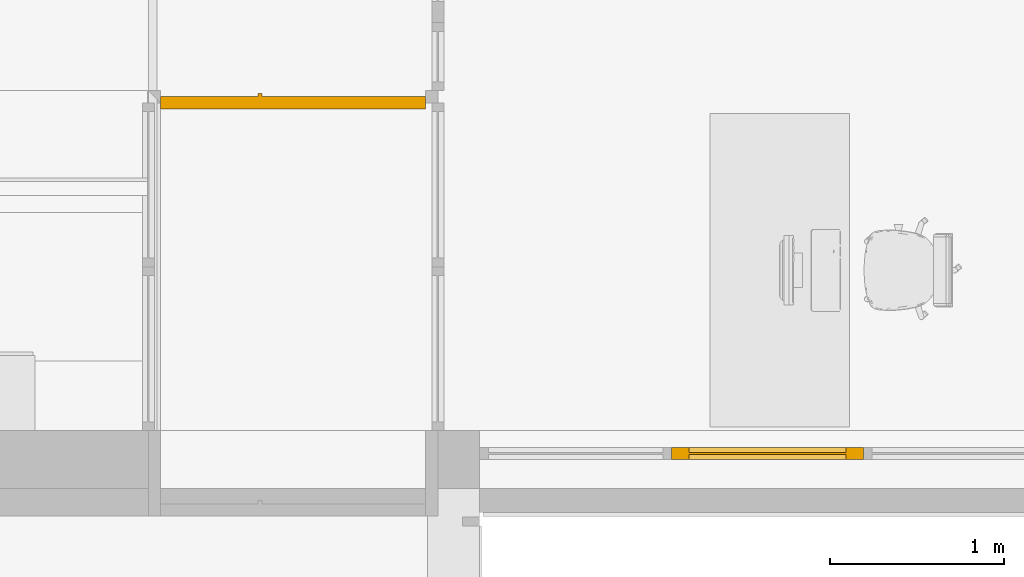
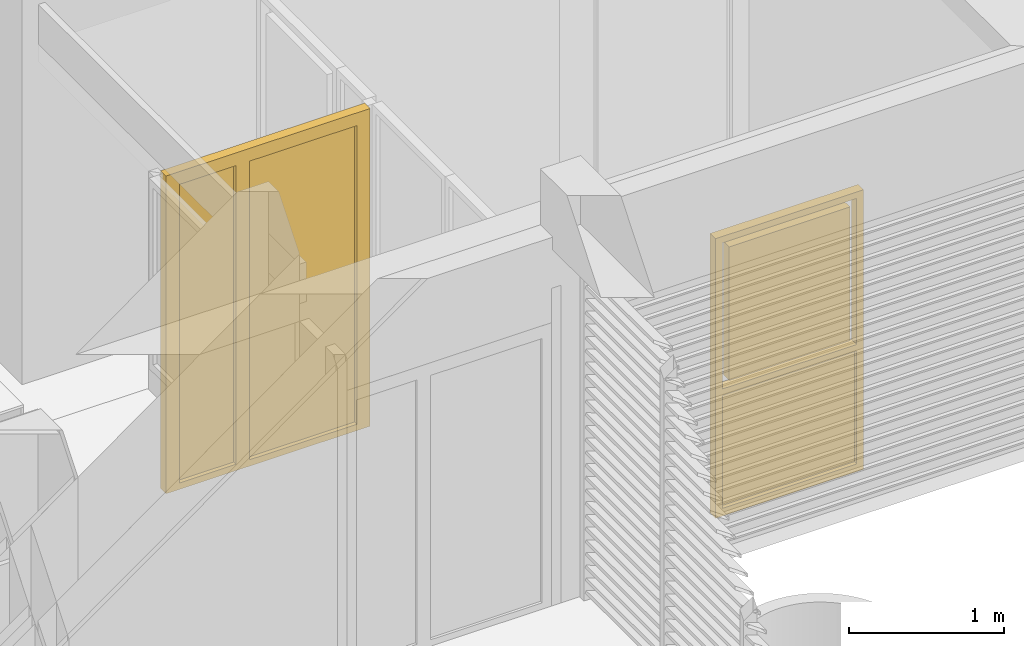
# One storey, part 47 of 64: 2 windows.
"""IFC2X3 building model written with IfcOpenShell, lengths in metres."""

from ifc_helpers import new_model, entity, si_unit, converted_unit, derived_unit, direction, frame, origin, place, context, subcontext, project, spatial, faceted_brep, source, transform, mapped, material, type_object, type_shapes, element, save


model = new_model("IFC2X3")

# Units and contexts
model_context = context("Model", 3, precision=1e-05, world=origin(), true_north=direction((6.123031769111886e-17, 1.0)))
body_context = subcontext(model_context, "Body", "Model", "MODEL_VIEW")
ifc_project = project(units=[si_unit("LENGTHUNIT", "METRE"), si_unit("AREAUNIT", "SQUARE_METRE"), si_unit("VOLUMEUNIT", "CUBIC_METRE"), converted_unit("PLANEANGLEUNIT", "DEGREE", entity("IfcRatioMeasure", 0.017453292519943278), si_unit("PLANEANGLEUNIT", "RADIAN"), dimensions=[0, 0, 0, 0, 0, 0, 0]), si_unit("MASSUNIT", "GRAM", prefix="KILO"), derived_unit("MASSDENSITYUNIT", [(si_unit("MASSUNIT", "GRAM", prefix="KILO"), 1), (si_unit("LENGTHUNIT", "METRE"), -3)]), derived_unit("MOMENTOFINERTIAUNIT", [(si_unit("LENGTHUNIT", "METRE"), 4)]), si_unit("TIMEUNIT", "SECOND"), si_unit("FREQUENCYUNIT", "HERTZ"), si_unit("THERMODYNAMICTEMPERATUREUNIT", "DEGREE_CELSIUS"), derived_unit("THERMALTRANSMITTANCEUNIT", [(si_unit("MASSUNIT", "GRAM", prefix="KILO"), 1), (si_unit("THERMODYNAMICTEMPERATUREUNIT", "KELVIN"), -1), (si_unit("TIMEUNIT", "SECOND"), -3)]), derived_unit("THERMALCONDUCTANCEUNIT", [(si_unit("MASSUNIT", "GRAM", prefix="KILO"), 1), (si_unit("LENGTHUNIT", "METRE"), 1), (si_unit("THERMODYNAMICTEMPERATUREUNIT", "KELVIN"), -1), (si_unit("TIMEUNIT", "SECOND"), -3)]), derived_unit("VOLUMETRICFLOWRATEUNIT", [(si_unit("LENGTHUNIT", "METRE"), 3), (si_unit("TIMEUNIT", "SECOND"), -1)]), derived_unit("MASSFLOWRATEUNIT", [(si_unit("MASSUNIT", "GRAM", prefix="KILO"), 1), (si_unit("TIMEUNIT", "SECOND"), -1)]), derived_unit("ROTATIONALFREQUENCYUNIT", [(si_unit("TIMEUNIT", "SECOND"), -1)]), si_unit("ELECTRICCURRENTUNIT", "AMPERE"), si_unit("ELECTRICVOLTAGEUNIT", "VOLT"), si_unit("POWERUNIT", "WATT"), si_unit("FORCEUNIT", "NEWTON", prefix="KILO"), si_unit("ILLUMINANCEUNIT", "LUX"), si_unit("LUMINOUSFLUXUNIT", "LUMEN"), si_unit("LUMINOUSINTENSITYUNIT", "CANDELA"), derived_unit("USERDEFINED", [(si_unit("MASSUNIT", "GRAM", prefix="KILO"), -1), (si_unit("LENGTHUNIT", "METRE"), -2), (si_unit("TIMEUNIT", "SECOND"), 3), (si_unit("LUMINOUSFLUXUNIT", "LUMEN"), 1)]), derived_unit("USERDEFINED", [(si_unit("MASSUNIT", "GRAM", prefix="KILO"), 1), (si_unit("LENGTHUNIT", "METRE"), 3), (si_unit("TIMEUNIT", "SECOND"), -3), (si_unit("ELECTRICCURRENTUNIT", "AMPERE"), -2)]), derived_unit("USERDEFINED", [(si_unit("LENGTHUNIT", "METRE"), 2), (si_unit("TIMEUNIT", "SECOND"), -2)]), derived_unit("SOUNDPOWERUNIT", [(si_unit("MASSUNIT", "GRAM", prefix="KILO"), 1), (si_unit("LENGTHUNIT", "METRE"), 2), (si_unit("TIMEUNIT", "SECOND"), -3)]), derived_unit("SOUNDPRESSUREUNIT", [(si_unit("MASSUNIT", "GRAM", prefix="KILO"), 1), (si_unit("LENGTHUNIT", "METRE"), -1), (si_unit("TIMEUNIT", "SECOND"), -2)]), derived_unit("LINEARVELOCITYUNIT", [(si_unit("LENGTHUNIT", "METRE"), 1), (si_unit("TIMEUNIT", "SECOND"), -1)]), si_unit("PRESSUREUNIT", "PASCAL"), derived_unit("USERDEFINED", [(si_unit("LENGTHUNIT", "METRE"), -2), (si_unit("MASSUNIT", "GRAM", prefix="KILO"), 1), (si_unit("TIMEUNIT", "SECOND"), -2)]), derived_unit("LINEARFORCEUNIT", [(si_unit("MASSUNIT", "GRAM", prefix="KILO"), 1), (si_unit("LENGTHUNIT", "METRE"), 1), (si_unit("TIMEUNIT", "SECOND"), -2), (si_unit("LENGTHUNIT", "METRE"), -1)]), derived_unit("PLANARFORCEUNIT", [(si_unit("MASSUNIT", "GRAM", prefix="KILO"), 1), (si_unit("LENGTHUNIT", "METRE"), 1), (si_unit("TIMEUNIT", "SECOND"), -2), (si_unit("LENGTHUNIT", "METRE"), -2)]), derived_unit("SPECIFICHEATCAPACITYUNIT", [(si_unit("LENGTHUNIT", "METRE"), 2), (si_unit("TIMEUNIT", "SECOND"), -2), (si_unit("THERMODYNAMICTEMPERATUREUNIT", "KELVIN"), -1)]), derived_unit("VAPORPERMEABILITYUNIT", [(si_unit("TIMEUNIT", "SECOND"), 1), (si_unit("LENGTHUNIT", "METRE"), -1)]), derived_unit("DYNAMICVISCOSITYUNIT", [(si_unit("MASSUNIT", "GRAM", prefix="KILO"), 1), (si_unit("LENGTHUNIT", "METRE"), -1), (si_unit("TIMEUNIT", "SECOND"), -1)]), derived_unit("THERMALEXPANSIONCOEFFICIENTUNIT", [(si_unit("THERMODYNAMICTEMPERATUREUNIT", "KELVIN"), -1)])], contexts=[model_context])

# Site, building, storey
site_placement = place(None, origin())
site = spatial("IfcSite", under=ifc_project, at=site_placement, Name="Default", CompositionType="ELEMENT")
building_placement = place(site_placement, origin())
building = spatial("IfcBuilding", under=site, at=building_placement, CompositionType="ELEMENT")
storey_placement = place(building_placement, origin())
storey = spatial("IfcBuildingStorey", under=building, at=storey_placement, Name="REZ-DE-CHAUSSÉE", CompositionType="ELEMENT", Elevation=0.0)

# Windows
ifc_material = material(Name="Transp. - Verre clair (rapide)")
window_style_1 = type_object("IfcWindowStyle", Name="Fen-007", ConstructionType="NOTDEFINED", OperationType="NOTDEFINED", ParameterTakesPrecedence=False, Sizeable=False, material=ifc_material)
shared_shape_1 = source(origin(), body_context, "Body", "Brep", [
    faceted_brep([(0.0, -0.3332999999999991, 2.2), (1.100000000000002, -0.3332999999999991, 2.2), (1.100000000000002, -0.3332999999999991, 0.0), (0.0, -0.3332999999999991, 0.0), (1.050000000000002, -0.3332999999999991, 1.0), (1.050000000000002, -0.3332999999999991, 2.15), (0.050000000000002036, -0.3332999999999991, 2.15), (0.050000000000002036, -0.3332999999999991, 1.0), (1.050000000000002, -0.3332999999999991, 0.95), (0.050000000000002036, -0.3332999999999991, 0.95), (0.050000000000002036, -0.3332999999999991, 0.06000000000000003), (1.050000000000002, -0.3332999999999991, 0.06000000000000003), (0.0, -0.4032999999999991, 2.2), (1.100000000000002, -0.4032999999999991, 2.2), (1.100000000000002, -0.4032999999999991, 0.0), (0.0, -0.4032999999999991, 0.0), (1.050000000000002, -0.4032999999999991, 1.0), (1.050000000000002, -0.4032999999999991, 2.15), (0.050000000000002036, -0.4032999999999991, 2.15), (0.050000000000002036, -0.4032999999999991, 1.0), (1.050000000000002, -0.4032999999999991, 0.95), (0.050000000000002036, -0.4032999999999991, 0.95), (0.050000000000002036, -0.4032999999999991, 0.06000000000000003), (1.050000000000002, -0.4032999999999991, 0.06), (1.0, -0.4032999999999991, 2.1), (1.0, -0.4032999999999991, 1.05), (0.10000000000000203, -0.4032999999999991, 1.05), (0.10000000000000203, -0.4032999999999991, 2.1), (1.0, -0.3332999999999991, 2.1), (1.0, -0.3332999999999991, 1.05), (0.10000000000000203, -0.3332999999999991, 1.05), (0.10000000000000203, -0.3332999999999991, 2.1), (0.050000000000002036, -0.36829999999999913, 2.15), (0.050000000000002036, -0.36829999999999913, 1.0), (1.050000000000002, -0.36829999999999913, 2.15), (1.050000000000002, -0.36829999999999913, 1.0), (0.10000000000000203, -0.3732999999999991, 1.05), (0.10000000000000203, -0.3632999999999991, 1.05), (1.0, -0.3632999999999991, 1.05), (1.0, -0.3732999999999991, 1.05), (0.10000000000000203, -0.3732999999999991, 2.1), (0.10000000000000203, -0.3632999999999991, 2.1), (1.0, -0.3632999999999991, 2.1), (1.0, -0.3732999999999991, 2.1), (0.050000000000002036, -0.3732999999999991, 0.0601), (0.050000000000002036, -0.3632999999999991, 0.0601), (1.050000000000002, -0.3632999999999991, 0.0601), (1.050000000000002, -0.3732999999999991, 0.0601), (0.050000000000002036, -0.3732999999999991, 0.95), (0.050000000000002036, -0.3632999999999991, 0.95), (1.050000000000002, -0.3632999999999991, 0.95), (1.050000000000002, -0.3732999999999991, 0.95)], [[[0, 1, 2, 3], [4, 5, 6, 7], [8, 9, 10, 11]], [[1, 0, 12, 13]], [[2, 1, 13, 14]], [[3, 2, 14, 15]], [[0, 3, 15, 12]], [[16, 17, 5, 4]], [[6, 5, 17, 18]], [[7, 6, 18, 19]], [[4, 7, 19, 16]], [[20, 21, 9, 8]], [[21, 22, 10, 9]], [[11, 10, 22, 23]], [[8, 11, 23, 20]], [[14, 13, 12, 15], [16, 19, 18, 17], [20, 23, 22, 21]], [[17, 18, 19, 16], [24, 25, 26, 27]], [[17, 5, 6, 18]], [[6, 7, 19, 18]], [[7, 4, 16, 19]], [[16, 4, 5, 17]], [[24, 28, 29, 25]], [[29, 30, 26, 25]], [[30, 31, 27, 26]], [[27, 31, 28, 24]], [[6, 5, 4, 7], [29, 28, 31, 30]], [[19, 18, 32, 33]], [[16, 17, 34, 35]], [[19, 16, 35, 33]], [[18, 17, 34, 32]], [[33, 32, 6, 7]], [[35, 34, 5, 4]], [[33, 35, 4, 7]], [[32, 34, 5, 6]], [[36, 37, 38, 39]], [[40, 41, 37, 36]], [[37, 41, 42, 38]], [[39, 38, 42, 43]], [[36, 39, 43, 40]], [[43, 42, 41, 40]], [[44, 45, 46, 47]], [[48, 49, 45, 44]], [[45, 49, 50, 46]], [[47, 46, 50, 51]], [[44, 47, 51, 48]], [[51, 50, 49, 48]]]),
])
type_shapes(window_style_1, [shared_shape_1])
window_1_placement = place(storey_placement, frame((126.78075228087, 7.5789094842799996, 0.0), z_axis=(0.0, 0.0, 1.0), x_axis=(-1.0, 0.0, 0.0)))
element("IfcWindow", 1, at=window_1_placement, inside=storey, type_object=window_style_1, material=ifc_material, Name="Fen-007 9126:Fen-007 9126", ObjectType="Fen-007 9126:Fen-007 9126", OverallHeight=2.2, OverallWidth=1.100000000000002, context=body_context, shape_type="MappedRepresentation", body=[
    mapped(shared_shape_1, transform((0.0, 0.0, 0.0), scale=1.0)),
])
window_style_2 = type_object("IfcWindowStyle", Name="Fen-004", ConstructionType="NOTDEFINED", OperationType="NOTDEFINED", ParameterTakesPrecedence=False, Sizeable=False, material=ifc_material)
shared_shape_2 = source(origin(), body_context, "Body", "Brep", [
    faceted_brep([(0.0, 0.1407, 0.0), (1.5200000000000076, 0.1407, 0.0), (1.5200000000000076, 0.0707, 0.0), (0.0, 0.0707, 0.0), (0.0, 0.1407, 2.4999999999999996), (1.5200000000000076, 0.1407, 2.4999999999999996), (0.05000000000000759, 0.1407, 0.0), (1.4700000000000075, 0.1407, 0.0), (1.4700000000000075, 0.1407, 2.45), (0.05000000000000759, 0.1407, 2.45), (1.5200000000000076, 0.0707, 2.4999999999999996), (0.0, 0.0707, 2.4999999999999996), (0.05000000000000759, 0.0707, 0.0), (0.05000000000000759, 0.0707, 2.45), (1.4700000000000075, 0.0707, 2.45), (1.4700000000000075, 0.0707, 0.0), (0.9501000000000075, 0.1407, 0.0), (0.9501000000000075, 0.1407, 2.45), (1.4200000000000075, 0.1407, 2.3999999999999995), (1.0, 0.1407, 2.3999999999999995), (1.0, 0.1407, 0.05), (1.4200000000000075, 0.1407, 0.05), (0.9501000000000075, 0.0707, 0.0), (0.9501000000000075, 0.0707, 2.45), (1.4200000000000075, 0.0707, 2.3999999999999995), (1.0, 0.0707, 2.3999999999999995), (1.0, 0.0707, 0.05), (1.4200000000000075, 0.0707, 0.05), (1.4700000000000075, 0.1057, 0.0), (1.4700000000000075, 0.1057, 2.45), (0.9501000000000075, 0.1057, 0.0), (0.9501000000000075, 0.1057, 2.45), (1.0, 0.1107, 0.05), (1.4200000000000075, 0.1107, 0.05), (1.4200000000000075, 0.1007, 0.05), (1.0, 0.1007, 0.05), (1.0, 0.1107, 2.3999999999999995), (1.4200000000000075, 0.1107, 2.3999999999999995), (1.4200000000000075, 0.1007, 2.3999999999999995), (1.0, 0.1007, 2.3999999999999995), (0.9625000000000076, 0.0706000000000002, 0.00300000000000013), (0.9625000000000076, 0.0706000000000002, 2.4469999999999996), (0.9625000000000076, 0.050699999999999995, 2.4469999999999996), (0.9625000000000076, 0.050699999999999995, 0.00300000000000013), (0.9375000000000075, 0.0706000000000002, 0.00300000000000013), (0.9375000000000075, 0.0706000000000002, 2.4469999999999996), (0.9375000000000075, 0.050699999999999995, 2.4469999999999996), (0.9375000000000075, 0.050699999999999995, 0.00300000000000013), (0.9500000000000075, 0.1407, 2.45), (0.9500000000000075, 0.1407, 0.0), (0.10000000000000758, 0.1407, 2.3999999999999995), (0.10000000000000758, 0.1407, 0.05), (0.9000000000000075, 0.1407, 0.05), (0.9000000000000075, 0.1407, 2.3999999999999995), (0.9500000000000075, 0.0707, 2.45), (0.9500000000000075, 0.0707, 0.0), (0.10000000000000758, 0.0707, 2.3999999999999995), (0.10000000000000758, 0.0707, 0.05), (0.9000000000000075, 0.0707, 0.05), (0.9000000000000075, 0.0707, 2.3999999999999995), (0.9500000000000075, 0.1057, 2.45), (0.9500000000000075, 0.1057, 0.0), (0.05000000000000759, 0.1057, 2.45), (0.05000000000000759, 0.1057, 0.0), (0.9000000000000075, 0.1107, 0.05), (0.9000000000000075, 0.1007, 0.05), (0.10000000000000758, 0.1007, 0.05), (0.10000000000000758, 0.1107, 0.05), (0.9000000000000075, 0.1107, 2.3999999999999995), (0.9000000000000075, 0.1007, 2.3999999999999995), (0.10000000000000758, 0.1007, 2.3999999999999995), (0.10000000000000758, 0.1107, 2.3999999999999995)], [[[0, 1, 2, 3]], [[0, 4, 5, 1], [6, 7, 8, 9]], [[1, 5, 10, 2]], [[3, 2, 10, 11], [12, 13, 14, 15]], [[4, 0, 3, 11]], [[5, 4, 11, 10]], [[7, 6, 12, 15]], [[8, 7, 15, 14]], [[9, 8, 14, 13]], [[6, 9, 13, 12]], [[8, 7, 16, 17], [18, 19, 20, 21]], [[7, 8, 14, 15]], [[16, 7, 15, 22]], [[16, 22, 23, 17]], [[8, 17, 23, 14]], [[19, 18, 24, 25]], [[26, 20, 19, 25]], [[27, 21, 20, 26]], [[18, 21, 27, 24]], [[22, 15, 14, 23], [27, 26, 25, 24]], [[7, 28, 29, 8]], [[30, 28, 7, 16]], [[31, 29, 8, 17]], [[28, 15, 14, 29]], [[22, 15, 28, 30]], [[23, 14, 29, 31]], [[32, 33, 34, 35]], [[32, 36, 37, 33]], [[33, 37, 38, 34]], [[35, 34, 38, 39]], [[36, 32, 35, 39]], [[37, 36, 39, 38]], [[40, 41, 42, 43]], [[44, 45, 41, 40]], [[41, 45, 46, 42]], [[43, 42, 46, 47]], [[40, 43, 47, 44]], [[47, 46, 45, 44]], [[9, 48, 49, 6], [50, 51, 52, 53]], [[9, 13, 54, 48]], [[54, 55, 49, 48]], [[55, 12, 6, 49]], [[6, 12, 13, 9]], [[50, 56, 57, 51]], [[57, 58, 52, 51]], [[58, 59, 53, 52]], [[53, 59, 56, 50]], [[54, 13, 12, 55], [57, 56, 59, 58]], [[49, 48, 60, 61]], [[6, 9, 62, 63]], [[49, 6, 63, 61]], [[48, 9, 62, 60]], [[61, 60, 54, 55]], [[63, 62, 13, 12]], [[61, 63, 12, 55]], [[60, 62, 13, 54]], [[64, 65, 66, 67]], [[68, 69, 65, 64]], [[65, 69, 70, 66]], [[67, 66, 70, 71]], [[64, 67, 71, 68]], [[71, 70, 69, 68]]]),
])
type_shapes(window_style_2, [shared_shape_2])
window_2_placement = place(storey_placement, frame((124.27075228, 10.062909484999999, 0.0), z_axis=(0.0, 0.0, 1.0), x_axis=(-1.0, 0.0, 0.0)))
element("IfcWindow", 2, at=window_2_placement, inside=storey, type_object=window_style_2, material=ifc_material, Name="Fen-004 28724:Fen-004 28724", ObjectType="Fen-004 28724:Fen-004 28724", OverallHeight=2.4999999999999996, OverallWidth=1.5200000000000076, context=body_context, shape_type="MappedRepresentation", body=[
    mapped(shared_shape_2, transform((0.0, 0.0, 0.0), scale=1.0)),
])

save(model, "model.ifc")
